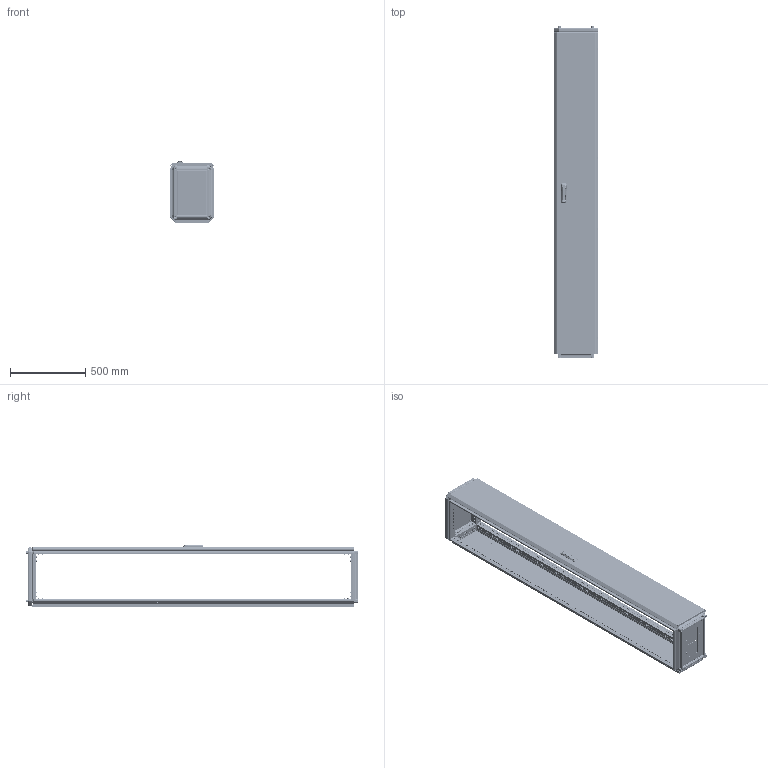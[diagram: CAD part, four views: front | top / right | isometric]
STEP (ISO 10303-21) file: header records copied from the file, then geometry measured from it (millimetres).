
FILE_DESCRIPTION (( 'STEP AP203' ), '1' );
FILE_NAME ('MA1.000.030422.10.00 AleSta2234 Øêàô AleSta 300õ400õ2200.STEP', '2024-08-23T08:36:54', ( '' ), ( '' ), 'SwSTEP 2.0', 'SolidWorks 2021', '' );
FILE_SCHEMA (( 'CONFIG_CONTROL_DESIGN' ));
Length unit declared in the file: millimetre
Products named in the file (50): MA1.101.060620.00.02 Ïðîôèëü ïîïåðå÷íûé ñâàðíîé_00 L=298 (˜=400); MA1.000.030422.10.00 AleSta2234 Øêàô AleSta 300õ400õ2200; MA1.200.060620.31.00 Äâåðü ñïëîøíàÿ äëÿ øêàôîâ ALESTA ÂõØ 2000õ600_2200å300; ﾘ琺矜 01.019 ﾃﾎﾑﾒ11371-78_12; Îñü ïåòëè 4õ52_‚¨­â A.M4x0,5x40 ƒŽ‘’ 11644-75; Øàéáà ñòîïîðíàÿ ñ íàðóæíûìè çóáöàìè SCHNORR, òèï VS öèíêîâûå õëîïüÿ Ì6 O6,4 ART 88121_Œ6; MA1.101.060620.10.01 Ïîëîòíî êðûøè 600õ600_300x400; Øïèëüêà Ì6õ12_˜¯¨«ìª  Œ6å20; MA1.101.060620.20.01 Ïîëîòíî íèæíåé ïàíåëè 600õ600_300å400; MA1.102.060620.00.00 AleSta-VG2000 Ñòîéêè âåðòèêàëüíûå, Â=2000ìì  (4øò)_ 300å400; MA1.200.060620.11.01 Ïîëîòíî çàäíåé ïàíåëè 2000õ600_2200å300; MS463-2-3(1); MA1.101.060620.20.00 Íèæíÿÿ ïàíåëü 600õ600_300å400; ﾘ琺矜 65ﾃ 019 ﾃﾎﾑﾒ 6402-70_12; 諘蜱齁罻 022 瀁錒瀔隮; êðåïëåíèå_êðóãëîé_òÿãè_RG1020-1.stp; MA1.101.060620.20.02 Çàêðûòèå íèæíåé ïàíåëè 600õ600_300å400; MA1.200.060620.31.04 ðèãåëü çàìêà äâåðè; MA1.101.060620.10.00 Êðûøà 600x600_300å400; Óïëîòíèòåëü ïàíåëè íèæíåé_   ‚=2200; 7380-2 ISO Âèíòû ñ ïîëóêðóãëîé ãîëîâêîé ñ ôëàíöåì ñ âíóòðåííèì øåñòèãðàííèêîì Ì4õ10; Âèíò_ðåçüáîâûäàâëèâàþùèé_Ì5õ12_DIN 7500E_00; MA1.200.060620.31.03 Ðåéêà íà äâåðü ãîðèçîíòàëüíàÿ Ø = 600_˜=300; Áîëò øåñòèãðàííûé Ì5õ12 DIN 933, êëàññ ïðî÷íîñòè 8.8, îöèíêîâàííàÿ ñòàëü; äåðæàòåëü_êðóãëîé_òÿãèRG002-RG1010-2-i-RG1010-3-.stp; ﾇﾀﾊﾋﾅﾏﾊﾀ ﾃﾀﾅﾗﾍﾀﾟ ﾘﾅﾑﾒﾈﾃﾐﾀﾍﾍﾀﾟ ﾑ ﾓﾌﾅﾍﾜﾘﾅﾍﾍﾛﾌ ﾁﾎﾐﾒﾎﾌ M4 X 11 (0.5-2.5 ﾌﾌ) HEX U-S ﾖﾈﾍﾊ; Âèíò ðåçüáîâûäàâëèâàþùèé Ì6õ12 DIN 7500E_Œ6å10; Ãàéêà ñàìîêîíòðÿùàÿñÿ ñ íåéëîíîâîé âñòàâêîé Ì6 DIN 985, êëàññ ïðî÷íîñòè 8, îöèíêîâàííàÿ ñòàëü_Œ5; MA1.101.060620.00.00 AleSta-RB66 Êîìïëåêò êðûøà è îñíîâàíèå_ 300x400; MA1.200.060620.30.00 AleSta-D20M600 Äâåðü ñïëîøíàÿ äëÿ øêàôîâ ALESTA ÂõØ 2000õ600_2200å300; Íàâåñêà íà êîðïóñ ïîä êëåïêó; MA1.200.060620.31.05 Óãëîâîé óïîð äâåðíîé òÿãè; MA1.100.060620.00.01 Ñîåäèíèòåëü óãëîâîé_00; MA1.200.060620.10.00 AleSta-PR206  Ïàíåëü çàäíÿÿ, äëÿ øêàôîâ ALESTA, 2000 x 600_2200å300; òÿãà_lg001-2.STEP_‚=2200; Ïåòëÿ íà äâåðü ï-îáðàçíàÿ; Âèíò ñàìîíàðåçàþùèé ñ ïîòàéíîé ãîëîâêîé Ì5x14 DIN 7500 M TORX, êëàññ ïðî÷íîñòè 8.8, îöèíêîâàííàÿ ñòàëü_Œ5å12; Âèíò ñàìîíàðåçàþùèé ñ ïîòàéíîé ãîëîâêîé Ì5x14 DIN 7500 M TORX, êëàññ ïðî÷íîñòè 8.8, îöèíêîâàííàÿ ñòàëü_Œ5å14; MA1.102.060620.00.01 Ïðîôèëü âåðòèêàëüíûé ñâàðíîé_05 L=2098 (‚=2200); MA1.101.060620.00.02 Ïðîôèëü ïîïåðå÷íûé ñâàðíîé_03 L=198 (˜=300)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
Assembly tree (329 placements, depth 4):
  MA1.000.030422.10.00 AleSta2234 Øêàô AleSta 300õ400õ2200
    MA1.101.060620.00.00 AleSta-RB66 Êîìïëåêò êðûøà è îñíîâàíèå_ 300x400
      MA1.101.060620.00.02 Ïðîôèëü ïîïåðå÷íûé ñâàðíîé_00 L=298 (˜=400)  x4
      MA1.101.060620.00.02 Ïðîôèëü ïîïåðå÷íûé ñâàðíîé_03 L=198 (˜=300)  x4
      MA1.101.060620.10.00 Êðûøà 600x600_300å400
        MA1.101.060620.10.01 Ïîëîòíî êðûøè 600õ600_300x400
        Øïèëüêà Ì6õ12_˜¯¨«ìª  Œ6å12  x4
        Óïëîòíèòåëü ïàíåëè íèæíåé_300å400
      MA1.101.060620.20.00 Íèæíÿÿ ïàíåëü 600õ600_300å400
        MA1.101.060620.20.01 Ïîëîòíî íèæíåé ïàíåëè 600õ600_300å400
        ﾇﾀﾊﾋﾅﾏﾊﾀ ﾃﾀﾅﾗﾍﾀﾟ ﾘﾅﾑﾒﾈﾃﾐﾀﾍﾍﾀﾟ ﾑ ﾓﾌﾅﾍﾜﾘﾅﾍﾍﾛﾌ ﾁﾎﾐﾒﾎﾌ M4 X 11 (0.5-2.5 ﾌﾌ) HEX U-S ﾖﾈﾍﾊ  x4
        MA1.101.060620.20.02 Çàêðûòèå íèæíåé ïàíåëè 600õ600_300å400  x2
        7380-2 ISO Âèíòû ñ ïîëóêðóãëîé ãîëîâêîé ñ ôëàíöåì ñ âíóòðåííèì øåñòèãðàííèêîì Ì4õ10  x4
      Âèíò_ðåçüáîâûäàâëèâàþùèé_Ì5õ12_DIN 7500E_Œ5å12  x8
      MA1.100.060620.00.01 Ñîåäèíèòåëü óãëîâîé_00  x8
      Âèíò ñ âí. øåñòèãðàííèêîì M12 DIN912_•30  x4
      Âèíò ðåçüáîâûäàâëèâàþùèé Ì6õ12 DIN 7500E_Œ6å10  x96
      ﾘ琺矜 01.019 ﾃﾎﾑﾒ11371-78_12  x4
      ﾘ琺矜 65ﾃ 019 ﾃﾎﾑﾒ 6402-70_12  x4
      Øàéáà ñòîïîðíàÿ ñ íàðóæíûìè çóáöàìè SCHNORR, òèï VS öèíêîâûå õëîïüÿ Ì6 O6,4 ART 88121_Œ6  x80
    MA1.102.060620.00.00 AleSta-VG2000 Ñòîéêè âåðòèêàëüíûå, Â=2000ìì  (4øò)_ 300å400
      MA1.102.060620.00.01 Ïðîôèëü âåðòèêàëüíûé ñâàðíîé_05 L=2098 (‚=2200)  x4
    MA1.200.060620.10.00 AleSta-PR206  Ïàíåëü çàäíÿÿ, äëÿ øêàôîâ ALESTA, 2000 x 600_2200å300
      MA1.200.060620.11.00 Ïàíåëü çàäíÿÿ, äëÿ øêàôîâ AleSta, 2000x600_2200å300
        MA1.200.060620.11.01 Ïîëîòíî çàäíåé ïàíåëè 2000õ600_2200å300
        Óïëîòíèòåëü ïàíåëè íèæíåé_   ‚=2200
        Øïèëüêà Ì6õ12_˜¯¨«ìª  Œ6å12  x4
      Âèíò ñàìîíàðåçàþùèé ñ ïîòàéíîé ãîëîâêîé Ì5x14 DIN 7500 M TORX, êëàññ ïðî÷íîñòè 8.8, îöèíêîâàííàÿ ñòàëü_Œ5å14  x8
    MA1.200.060620.30.00 AleSta-D20M600 Äâåðü ñïëîøíàÿ äëÿ øêàôîâ ALESTA ÂõØ 2000õ600_2200å300
      MA1.200.060620.31.00 Äâåðü ñïëîøíàÿ äëÿ øêàôîâ ALESTA ÂõØ 2000õ600_2200å300
        MA1.200.060620.31.01 Ïîëîòíî äâåðè ñïëîøíîé 2000õ600_2200å300
        Óïëîòíèòåëü ïàíåëè íèæíåé_   ‚=2200
        Øïèëüêà Ì6õ12_˜¯¨«ìª  Œ6å20  x12
        Øïèëüêà Ì6õ12_˜¯¨«ìª  Œ6å16  x4
        Ïåòëÿ íà äâåðü ï-îáðàçíàÿ  x4
      MA1.200.060620.31.03 Ðåéêà íà äâåðü ãîðèçîíòàëüíàÿ Ø = 600_˜=300  x2
      諘蜱齁罻 022 瀁錒瀔隮  x4
      MA1.200.060620.31.02 Ðåéêà íà äâåðü âåðòèêàëüíàÿ Â = 2000_‚ = 2200  x2
      äåðæàòåëü_êðóãëîé_òÿãèRG002-RG1010-2-i-RG1010-3-.stp  x2
      òÿãà_lg001-2.STEP_‚=2200  x2
      êðåïëåíèå_êðóãëîé_òÿãè_RG1020-1.stp  x2
      MS463-2-3(1)
      Ãàéêà ñàìîêîíòðÿùàÿñÿ ñ íåéëîíîâîé âñòàâêîé Ì6 DIN 985, êëàññ ïðî÷íîñòè 8, îöèíêîâàííàÿ ñòàëü_Œ6  x12
      Ãàéêà ñàìîêîíòðÿùàÿñÿ ñ íåéëîíîâîé âñòàâêîé Ì6 DIN 985, êëàññ ïðî÷íîñòè 8, îöèíêîâàííàÿ ñòàëü_Œ5  x2
      Áîëò øåñòèãðàííûé Ì5õ12 DIN 933, êëàññ ïðî÷íîñòè 8.8, îöèíêîâàííàÿ ñòàëü  x2
      MA1.200.060620.31.04 ðèãåëü çàìêà äâåðè
      MA1.200.060620.31.05 Óãëîâîé óïîð äâåðíîé òÿãè  x2
      Âèíò_ðåçüáîâûäàâëèâàþùèé_Ì5õ12_DIN 7500E_00  x2
      Íàâåñêà íà êîðïóñ ïîä êëåïêó  x4
      Îñü ïåòëè 4õ52_‚¨­â A.M4x0,5x40 ƒŽ‘’ 11644-75  x4
      Âèíò ñàìîíàðåçàþùèé ñ ïîòàéíîé ãîëîâêîé Ì5x14 DIN 7500 M TORX, êëàññ ïðî÷íîñòè 8.8, îöèíêîâàííàÿ ñòàëü_Œ5å12  x8
  Ïðîáêà ïëàñòèêîâàÿ óíèâåðñàëüíàÿ ïîä îòâåðñòèå 4,5 ìì, ñåðèÿ ST, öâåò áåñöâåòíûé – ST4,5
Bounding box: 292 x 2210.9 x 416.8 mm (x, y, z)
Volume: 6904710.1 mm3; surface area: 8072196.8 mm2
Topology: 356 solids, 370 shells, 22975 faces, 59134 edges, 37008 vertices
Faces by surface type: plane 13789, cylinder 6549, bspline 873, cone 837, torus 829, sphere 98
Entity records: 243984 total; most frequent: CARTESIAN_POINT 79069, ORIENTED_EDGE 31538, DIRECTION 31016, EDGE_CURVE 15786, AXIS2_PLACEMENT_3D 10660, VERTEX_POINT 9821, LINE 9696, VECTOR 9696
